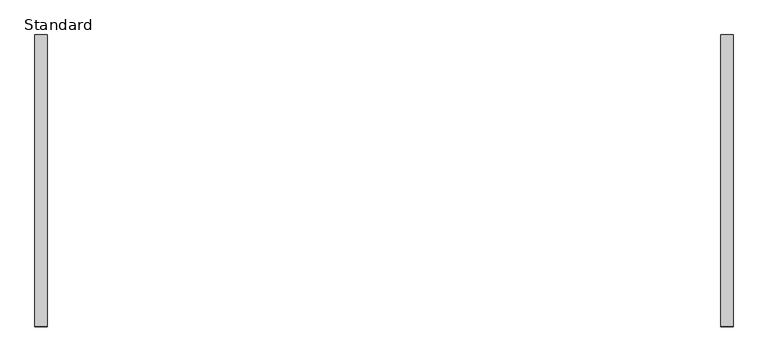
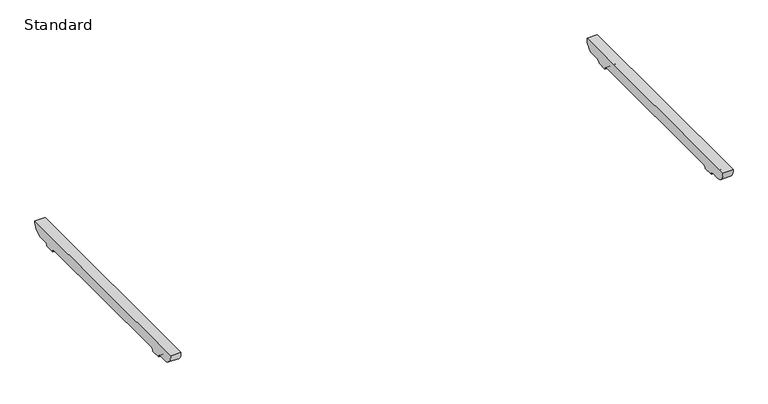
"""IFC4 building model written with IfcOpenShell, lengths in millimetres: furniture geometry, BDG_BossDesign_Tbls_AgentTables4Legs_Nested : Standard."""

import ifcopenshell
import ifcopenshell.guid

model = None  # the IFC model being written
_history = None  # IfcOwnerHistory: only IFC2X3 demands one
_inside = {}  # id of a spatial element -> (the spatial element, [elements in it])
_under = {}  # id of a project, library or spatial element -> (it, [spatial elements below it])
_declared = {}  # id of a project -> (the project, [libraries it declares])
_typed = {}  # id of a type object -> (the type object, [elements of that type])
_made_of = {}  # id of a material, layer set ... -> (it, [elements and type objects made of it])


def new_model(schema):
    """Start an empty IFC model of exactly this schema.

    Asked for "IFC4X3", IfcOpenShell would pick the latest addendum, in which some entities
    have other attributes; the version numbers below select the first issue.
    IFC2X3 requires an IfcOwnerHistory on every rooted entity: one is made here for all.
    """
    global model, _history
    if schema == "IFC4X3":
        model = ifcopenshell.file(schema_version=(4, 3, 0, 0))
    else:
        model = ifcopenshell.file(schema=schema)
    _inside.clear()
    _under.clear()
    _declared.clear()
    _typed.clear()
    _made_of.clear()
    _history = None
    if model.schema == "IFC2X3":
        org = make("IfcOrganization", Name="unknown")
        user = make(
            "IfcPersonAndOrganization",
            ThePerson=make("IfcPerson", FamilyName="unknown"),
            TheOrganization=org,
        )
        app = make(
            "IfcApplication",
            ApplicationDeveloper=org,
            Version="unknown",
            ApplicationFullName="unknown",
            ApplicationIdentifier="unknown",
        )
        _history = make(
            "IfcOwnerHistory",
            OwningUser=user,
            OwningApplication=app,
            ChangeAction="ADDED",
            CreationDate=0,
        )
    return model


def make(cls, **values):
    """One entity of the class cls with the attributes given. An attribute that is None is left unset."""
    return model.create_entity(
        cls, **{name: value for name, value in values.items() if value is not None}
    )


def rooted(cls, **values):
    """An entity with a GlobalId (a new one), such as an element, a storey or a relation."""
    return make(cls, GlobalId=ifcopenshell.guid.new(), OwnerHistory=_history, **values)


def si_unit(unit_type, name, prefix=None):
    """IfcSIUnit, for example si_unit("LENGTHUNIT", "METRE", prefix="MILLI")."""
    return make("IfcSIUnit", UnitType=unit_type, Prefix=prefix, Name=name)


def assignment(units):
    """IfcUnitAssignment: the units of a project."""
    return None if units is None else make("IfcUnitAssignment", Units=units)


def point(xyz):
    """IfcCartesianPoint."""
    return None if xyz is None else make("IfcCartesianPoint", Coordinates=xyz)


def direction(xyz):
    """IfcDirection."""
    return None if xyz is None else make("IfcDirection", DirectionRatios=xyz)


def frame(location, z_axis=None, x_axis=None):
    """IfcAxis2Placement3D, a coordinate frame: its origin and axes. An axis left out is left unset."""
    return make(
        "IfcAxis2Placement3D",
        Location=point(location),
        Axis=direction(z_axis),
        RefDirection=direction(x_axis),
    )


def frame_2d(location, x_axis=None):
    """IfcAxis2Placement2D, a coordinate frame in the plane: its origin and x axis."""
    return make(
        "IfcAxis2Placement2D", Location=point(location), RefDirection=direction(x_axis)
    )


def origin():
    """The frame at (0, 0, 0) with its axes left unset."""
    return frame((0.0, 0.0, 0.0))


def place(relative_to, where):
    """IfcLocalPlacement: puts the frame where relative to a parent placement (None: the world)."""
    return make(
        "IfcLocalPlacement", PlacementRelTo=relative_to, RelativePlacement=where
    )


def context(
    kind, dimensions, precision=None, world=None, true_north=None, identifier=None
):
    """IfcGeometricRepresentationContext, for example the 3D "Model" context."""
    return make(
        "IfcGeometricRepresentationContext",
        ContextIdentifier=identifier,
        ContextType=kind,
        CoordinateSpaceDimension=dimensions,
        Precision=precision,
        WorldCoordinateSystem=world,
        TrueNorth=true_north,
    )


def project(units=None, contexts=None):
    """IfcProject with its units and contexts."""
    return rooted(
        "IfcProject",
        Name="project",
        RepresentationContexts=contexts,
        UnitsInContext=assignment(units),
    )


def spatial(cls, under=None, at=None, **own):
    """A site, building, storey or space (cls), placed at a placement, below another one or the project."""
    s = rooted(cls, ObjectPlacement=at, **own)
    if under is not None:
        _under.setdefault(under.id(), (under, []))[1].append(s)
    return s


def polyline(points):
    """IfcPolyline through the points."""
    return make("IfcPolyline", Points=[point(p) for p in points])


def circle_curve(where, radius):
    """IfcCircle in the frame where."""
    return make("IfcCircle", Position=where, Radius=radius)


def trimmed(basis, trim1, trim2, sense, master):
    """IfcTrimmedCurve: the piece of a basis curve between two trims."""
    return make(
        "IfcTrimmedCurve",
        BasisCurve=basis,
        Trim1=trim1,
        Trim2=trim2,
        SenseAgreement=sense,
        MasterRepresentation=master,
    )


def segment(curve, same_sense, transition):
    """IfcCompositeCurveSegment."""
    return make(
        "IfcCompositeCurveSegment",
        Transition=transition,
        SameSense=same_sense,
        ParentCurve=curve,
    )


def composite_curve(segments, self_intersect=None):
    """IfcCompositeCurve: segments joined end to end."""
    return make("IfcCompositeCurve", Segments=segments, SelfIntersect=self_intersect)


def outline(outer, holes=None, kind="AREA"):
    """IfcArbitraryClosedProfileDef: a profile drawn as a closed curve; with holes, ...WithVoids."""
    if holes is None:
        return make("IfcArbitraryClosedProfileDef", ProfileType=kind, OuterCurve=outer)
    return make(
        "IfcArbitraryProfileDefWithVoids",
        ProfileType=kind,
        OuterCurve=outer,
        InnerCurves=holes,
    )


def extrude(swept, where, along, depth):
    """IfcExtrudedAreaSolid: the profile swept, set in the frame where, extruded along a direction by depth."""
    return make(
        "IfcExtrudedAreaSolid",
        SweptArea=swept,
        Position=where,
        ExtrudedDirection=direction(along),
        Depth=depth,
    )


def shape(context_of_items, identifier, shape_type, items):
    """IfcShapeRepresentation: the items that make up one representation, for example the "Body"."""
    return make(
        "IfcShapeRepresentation",
        ContextOfItems=context_of_items,
        RepresentationIdentifier=identifier,
        RepresentationType=shape_type,
        Items=items,
    )


def source(mapping_origin, context_of_items, identifier, shape_type, items):
    """IfcRepresentationMap: a shape defined once, which mapped items show again and again."""
    return make(
        "IfcRepresentationMap",
        MappingOrigin=mapping_origin,
        MappedRepresentation=shape(context_of_items, identifier, shape_type, items),
    )


def transform(
    local_origin,
    x_axis=None,
    y_axis=None,
    z_axis=None,
    scale=None,
    scale2=None,
    scale3=None,
    uniform=True,
):
    """IfcCartesianTransformationOperator3D, or its non-uniform kind. x_axis, y_axis, z_axis: its Axis1, 2, 3."""
    if uniform:
        return make(
            "IfcCartesianTransformationOperator3D",
            Axis1=direction(x_axis),
            Axis2=direction(y_axis),
            LocalOrigin=point(local_origin),
            Scale=scale,
            Axis3=direction(z_axis),
        )
    return make(
        "IfcCartesianTransformationOperator3DnonUniform",
        Axis1=direction(x_axis),
        Axis2=direction(y_axis),
        LocalOrigin=point(local_origin),
        Scale=scale,
        Axis3=direction(z_axis),
        Scale2=scale2,
        Scale3=scale3,
    )


def mapped(mapping_source, mapping_target):
    """IfcMappedItem: shows the shape of a source again, moved by a transform."""
    return make(
        "IfcMappedItem", MappingSource=mapping_source, MappingTarget=mapping_target
    )


def made_of(thing, what):
    """Note that an element or type object is made of a material, layer set ...; save() writes the relation."""
    if what is not None:
        _made_of.setdefault(what.id(), (what, []))[1].append(thing)
    return thing


def element(
    cls,
    number,
    at=None,
    inside=None,
    cuts=None,
    type_object=None,
    material=None,
    context=None,
    identifier="Body",
    shape_type=None,
    held_by="IfcProductDefinitionShape",
    body=None,
    shapes=None,
    **own,
):
    """One element of the class cls, such as IfcWall. Its Tag is "e" and its number.

    at: its placement. inside: the storey or other place that contains it. cuts: it is an
    opening in that element (IfcRelVoidsElement). A single representation is given by context,
    identifier, shape_type and body (its items); several are given by shapes. held_by: the class
    of the entity that holds the representations. save() writes the other relations.
    """
    e = rooted(cls, Tag="e%d" % number, ObjectPlacement=at, **own)
    if body is not None:
        shapes = [shape(context, identifier, shape_type, body)]
    if shapes is not None:
        e.Representation = make(held_by, Representations=shapes)
    if inside is not None:
        _inside.setdefault(inside.id(), (inside, []))[1].append(e)
    if cuts is not None:
        rooted(
            "IfcRelVoidsElement", RelatingBuildingElement=cuts, RelatedOpeningElement=e
        )
    if type_object is not None:
        _typed.setdefault(type_object.id(), (type_object, []))[1].append(e)
    return made_of(e, material)


def aggregate(whole, parts):
    """IfcRelAggregates: a whole, such as a stair, and the parts it consists of."""
    return rooted("IfcRelAggregates", RelatingObject=whole, RelatedObjects=parts)


def save(model, path):
    """Write the relations noted so far, then the file.

    IfcRelAggregates (storeys below a building ...), IfcRelContainedInSpatialStructure (elements
    in a storey), IfcRelDefinesByType, IfcRelAssociatesMaterial and IfcRelDeclares: one each for
    every whole, place, type object, material and project.
    """
    for whole, parts in _under.values():
        aggregate(whole, parts)
    for where, things in _inside.values():
        rooted(
            "IfcRelContainedInSpatialStructure",
            RelatedElements=things,
            RelatingStructure=where,
        )
    for kind, things in _typed.values():
        rooted("IfcRelDefinesByType", RelatedObjects=things, RelatingType=kind)
    for what, things in _made_of.values():
        rooted("IfcRelAssociatesMaterial", RelatedObjects=things, RelatingMaterial=what)
    for by, libraries in _declared.values():
        rooted("IfcRelDeclares", RelatingContext=by, RelatedDefinitions=libraries)
    model.write(path)


def standard_5a547e0f(model_context):
    return source(origin(), model_context, "Body", "SweptSolid", [
        extrude(outline(composite_curve([segment(polyline([(480.5450184, 672.0), (442.7000122, 672.0)]), True, "CONTINUOUS"), segment(trimmed(circle_curve(frame_2d((442.7000122, 660.0)), 12.0), [point((442.7000122, 672.0))], [point((430.7000122, 660.0))], True, "CARTESIAN"), True, "CONTINUOUS"), segment(polyline([(430.7000122, 660.0), (385.7000122, 660.0)]), True, "CONTINUOUS"), segment(trimmed(circle_curve(frame_2d((373.7000122, 660.0)), 12.0), [point((385.7000122, 660.0))], [point((373.7000122, 672.0))], True, "CARTESIAN"), True, "CONTINUOUS"), segment(polyline([(373.7000122, 672.0), (-373.7000122, 672.0)]), True, "CONTINUOUS"), segment(trimmed(circle_curve(frame_2d((-373.7000122, 660.0)), 12.0), [point((-373.7000122, 672.0))], [point((-385.7000122, 660.0))], True, "CARTESIAN"), True, "CONTINUOUS"), segment(polyline([(-385.7000122, 660.0), (-430.7000122, 660.0)]), True, "CONTINUOUS"), segment(trimmed(circle_curve(frame_2d((-442.7000122, 660.0)), 12.0), [point((-430.7000122, 660.0))], [point((-442.7000122, 672.0))], True, "CARTESIAN"), True, "CONTINUOUS"), segment(polyline([(-442.7000122, 672.0), (-480.5450184, 672.0)]), True, "CONTINUOUS"), segment(trimmed(circle_curve(frame_2d((-478.2220439, 716.5514119)), 44.6119324), [point((-480.5450184, 672.0))], [point((-522.5, 722.0))], False, "CARTESIAN"), True, "CONTINUOUS"), segment(polyline([(-522.5, 722.0), (522.5, 722.0)]), True, "CONTINUOUS"), segment(trimmed(circle_curve(frame_2d((478.2220439, 716.5514119)), 44.6119324), [point((522.5, 722.0))], [point((480.5450184, 672.0))], False, "CARTESIAN"), True, "CONTINUOUS")], self_intersect=False)), frame((1205.0, 0.0, 0.0), z_axis=(1.0, 0.0, 0.0), x_axis=(0.0, 1.0, 0.0)), (0.0, 0.0, 1.0), 45.0),
        extrude(outline(composite_curve([segment(polyline([(480.5450184, 672.0), (442.7000122, 672.0)]), True, "CONTINUOUS"), segment(trimmed(circle_curve(frame_2d((442.7000122, 660.0)), 12.0), [point((442.7000122, 672.0))], [point((430.7000122, 660.0))], True, "CARTESIAN"), True, "CONTINUOUS"), segment(polyline([(430.7000122, 660.0), (385.7000122, 660.0)]), True, "CONTINUOUS"), segment(trimmed(circle_curve(frame_2d((373.7000122, 660.0)), 12.0), [point((385.7000122, 660.0))], [point((373.7000122, 672.0))], True, "CARTESIAN"), True, "CONTINUOUS"), segment(polyline([(373.7000122, 672.0), (-373.7000122, 672.0)]), True, "CONTINUOUS"), segment(trimmed(circle_curve(frame_2d((-373.7000122, 660.0)), 12.0), [point((-373.7000122, 672.0))], [point((-385.7000122, 660.0))], True, "CARTESIAN"), True, "CONTINUOUS"), segment(polyline([(-385.7000122, 660.0), (-430.7000122, 660.0)]), True, "CONTINUOUS"), segment(trimmed(circle_curve(frame_2d((-442.7000122, 660.0)), 12.0), [point((-430.7000122, 660.0))], [point((-442.7000122, 672.0))], True, "CARTESIAN"), True, "CONTINUOUS"), segment(polyline([(-442.7000122, 672.0), (-480.5450184, 672.0)]), True, "CONTINUOUS"), segment(trimmed(circle_curve(frame_2d((-478.2220439, 716.5514119)), 44.6119324), [point((-480.5450184, 672.0))], [point((-522.5, 722.0))], False, "CARTESIAN"), True, "CONTINUOUS"), segment(polyline([(-522.5, 722.0), (522.5, 722.0)]), True, "CONTINUOUS"), segment(trimmed(circle_curve(frame_2d((478.2220439, 716.5514119)), 44.6119324), [point((522.5, 722.0))], [point((480.5450184, 672.0))], False, "CARTESIAN"), True, "CONTINUOUS")], self_intersect=False)), frame((-1250.0, 0.0, 0.0), z_axis=(1.0, 0.0, 0.0), x_axis=(0.0, 1.0, 0.0)), (0.0, 0.0, 1.0), 45.0),
    ])


if __name__ == "__main__":
    model = new_model("IFC4")
    model_context = context("Model", 3, world=origin())
    ifc_project = project(units=[si_unit("LENGTHUNIT", "METRE", prefix="MILLI")], contexts=[model_context])
    site = spatial("IfcSite", under=ifc_project)
    building = spatial("IfcBuilding", under=site)
    placement = place(None, origin())
    standard_shape = standard_5a547e0f(model_context)
    element("IfcFurniture", 1, ObjectType="BDG_BossDesign_Tbls_AgentTables4Legs_Nested : Standard", at=placement, inside=building, context=model_context, shape_type="MappedRepresentation", body=[
        mapped(standard_shape, transform((0.0, 0.0, 0.0), x_axis=(1.0, 0.0, 0.0), y_axis=(0.0, 1.0, 0.0), z_axis=(0.0, 0.0, 1.0))),
    ])
    save(model, "model.ifc")
